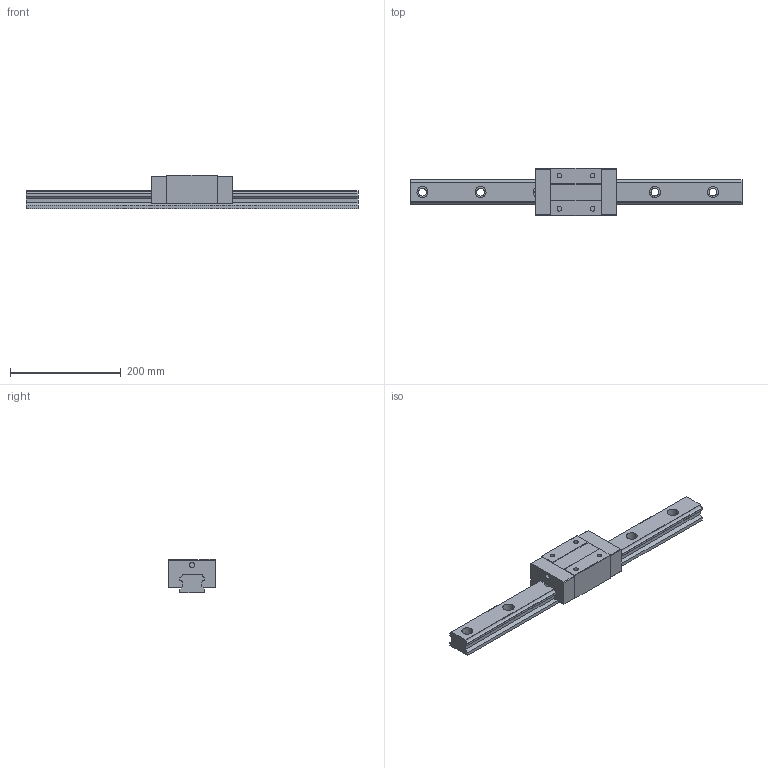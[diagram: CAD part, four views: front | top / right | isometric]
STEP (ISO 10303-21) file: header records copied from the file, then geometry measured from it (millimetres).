
FILE_DESCRIPTION (( 'STEP AP203' ), '1' );
FILE_NAME ('TRS45VN-WZ-§ï.STEP', '2023-08-31T07:12:23', ( '' ), ( '' ), 'SwSTEP 2.0', 'SolidWorks 2022', '' );
FILE_SCHEMA (( 'CONFIG_CONTROL_DESIGN' ));
Length unit declared in the file: millimetre
Products named in the file (1): TRS45VN-WZ-改
Bounding box: 600 x 85.5 x 60 mm (x, y, z)
Volume: 1204985.5 mm3; surface area: 153561.9 mm2
Topology: 1 solids, 1 shells, 154 faces, 424 edges, 280 vertices
Faces by surface type: plane 82, cylinder 72
Entity records: 5037 total; most frequent: DIRECTION 882, CARTESIAN_POINT 859, ORIENTED_EDGE 848, EDGE_CURVE 424, AXIS2_PLACEMENT_3D 303, VERTEX_POINT 280, VECTOR 276, LINE 276
